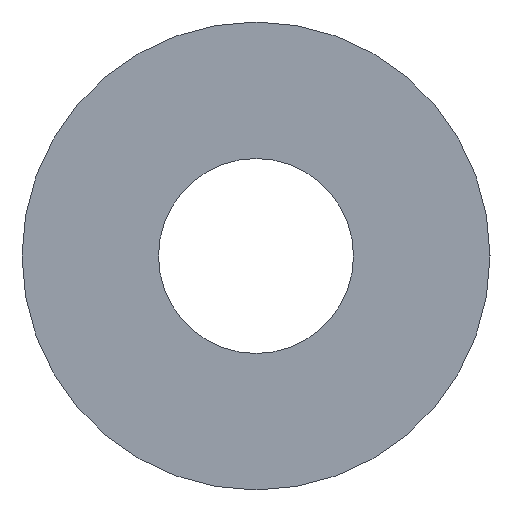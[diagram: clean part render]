
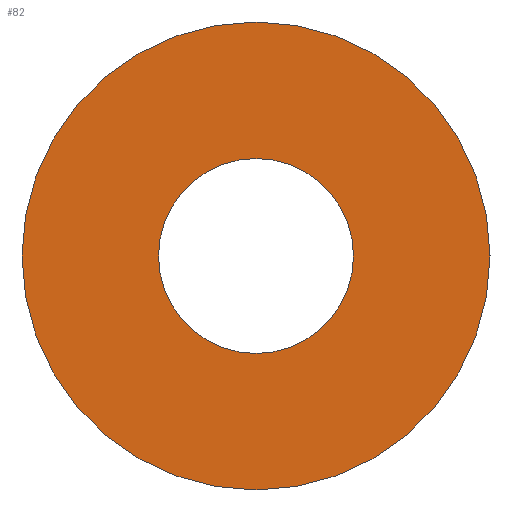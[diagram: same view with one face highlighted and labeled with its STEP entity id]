
A CAD part, left-side view. The second image highlights one B-rep face of the part: STEP entity #82.
In plain terms, the highlighted planar face has unit normal (-1, 0, 0).
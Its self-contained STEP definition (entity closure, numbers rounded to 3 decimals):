
#82 = ADVANCED_FACE( '', ( #109, #110 ), #111, .T. );
#109 = FACE_BOUND( '', #145, .T. );
#110 = FACE_OUTER_BOUND( '', #146, .T. );
#111 = PLANE( '', #147 );
#145 = EDGE_LOOP( '', ( #195 ) );
#146 = EDGE_LOOP( '', ( #196 ) );
#147 = AXIS2_PLACEMENT_3D( '', #197, #198, #199 );
#195 = ORIENTED_EDGE( '', *, *, #229, .T. );
#196 = ORIENTED_EDGE( '', *, *, #228, .F. );
#197 = CARTESIAN_POINT( '', ( 0., 6., 0. ) );
#198 = DIRECTION( '', ( -1., 0., 0. ) );
#199 = DIRECTION( '', ( 0., 0., 1. ) );
#228 = EDGE_CURVE( '', #248, #248, #249, .T. );
#229 = EDGE_CURVE( '', #250, #250, #251, .T. );
#248 = VERTEX_POINT( '', #272 );
#249 = CIRCLE( '', #273, 6. );
#250 = VERTEX_POINT( '', #274 );
#251 = CIRCLE( '', #275, 2.5 );
#272 = CARTESIAN_POINT( '', ( 0., 0., -6. ) );
#273 = AXIS2_PLACEMENT_3D( '', #304, #305, #306 );
#274 = CARTESIAN_POINT( '', ( 0., 0., -2.5 ) );
#275 = AXIS2_PLACEMENT_3D( '', #307, #308, #309 );
#304 = CARTESIAN_POINT( '', ( 0., 0., 0. ) );
#305 = DIRECTION( '', ( 1., 0., 0. ) );
#306 = DIRECTION( '', ( 0., 0., -1. ) );
#307 = CARTESIAN_POINT( '', ( 0., 0., 0. ) );
#308 = DIRECTION( '', ( 1., 0., 0. ) );
#309 = DIRECTION( '', ( 0., 0., -1. ) );
